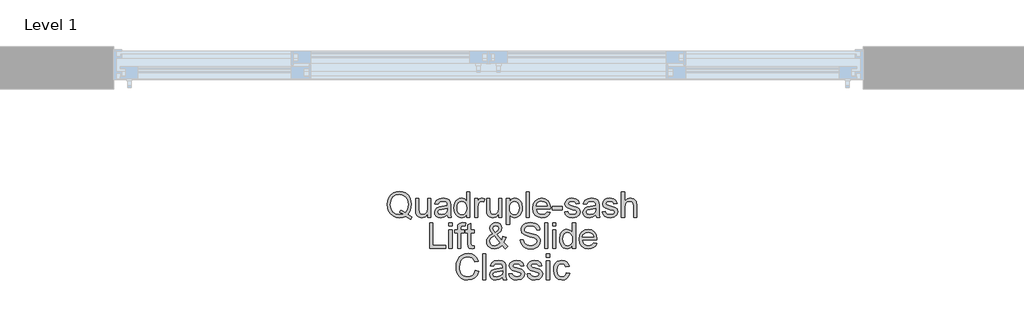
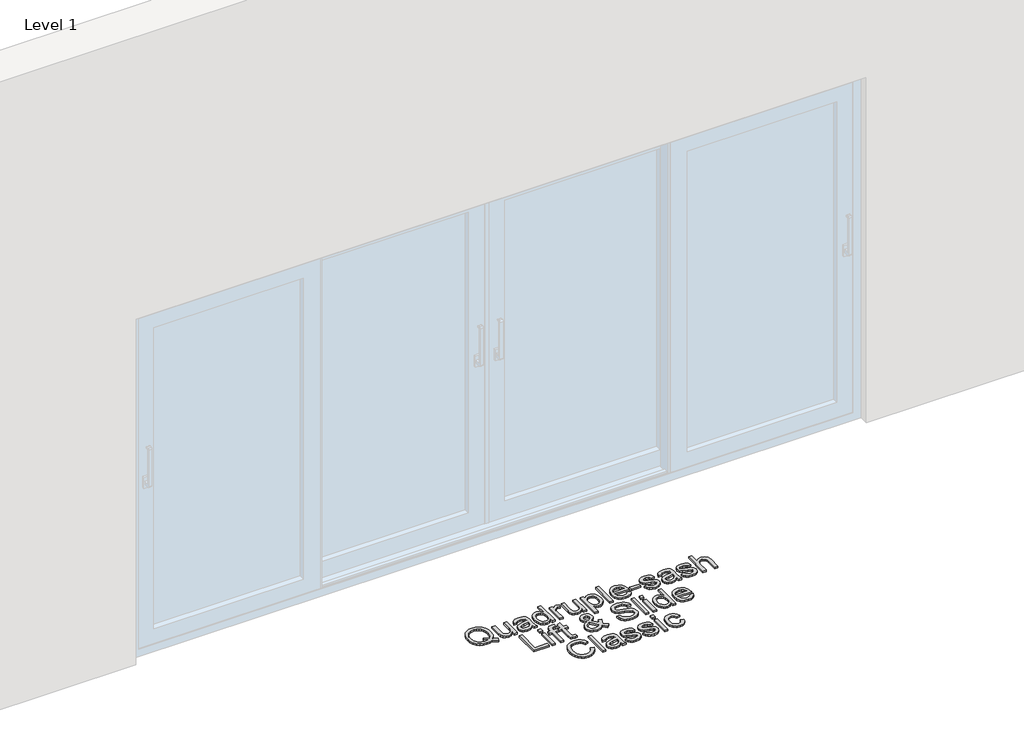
# One storey, part 7 of 13: 1 proxy.
"""IFC4 building model written with IfcOpenShell, lengths in millimetres."""

from ifc_helpers import new_model, si_unit, origin, origin_with_axes, place, context, project, spatial, polyline, outline, extrude, element, save

model = new_model("IFC4")

# Units and contexts
model_context = context("Model", 3, world=origin())
ifc_project = project(units=[si_unit("LENGTHUNIT", "METRE", prefix="MILLI")], contexts=[model_context])

# Site, building, storey
site = spatial("IfcSite", under=ifc_project)
building = spatial("IfcBuilding", under=site)
storey = spatial("IfcBuildingStorey", under=building, Name="Level 1", Elevation=0.0)

# Proxy
placement = place(None, origin())
element("IfcBuildingElementProxy", 1, Name="150mm Arial", ObjectType="150mm Arial", at=placement, inside=storey, context=model_context, shape_type="SweptSolid", body=[
    extrude(outline(polyline([(7597.0276643, -5879.5997474), (7620.388171, -5895.3083086), (7615.3113995, -5909.1038834), (7584.2989473, -5891.4823358), (7566.8705377, -5897.8834825), (7547.6946887, -5900.0171981), (7528.4268692, -5897.5569873), (7511.0168538, -5890.1763547), (7496.4349312, -5878.3397515), (7485.6513903, -5862.5116287), (7478.9881276, -5843.5611074), (7476.7670401, -5822.3573089), (7478.9835291, -5801.1351163), (7485.6329962, -5781.9086836), (7496.3751504, -5765.855233), (7510.869701, -5754.151987), (7528.2153371, -5747.0058793), (7547.5107477, -5744.6238433), (7566.9579097, -5747.0610616), (7584.3909178, -5754.3727162), (7598.8624757, -5766.0713637), (7609.4252875, -5781.6695603), (7615.8816165, -5800.3395715), (7618.0337262, -5821.2536629), (7612.8098019, -5854.1791015), (7606.2523053, -5867.8367206), (7597.0276643, -5879.5997474)]), holes=[polyline([(7552.8818249, -5854.5469835), (7568.7191448, -5860.534263), (7581.5030441, -5868.8575931), (7594.7743871, -5849.4334238), (7599.1981681, -5822.2101561), (7597.6346696, -5805.6324737), (7592.9441741, -5791.2896744), (7585.2416449, -5779.5450417), (7574.6420449, -5770.7618591), (7561.8627441, -5765.2850159), (7547.6211123, -5763.4594015), (7527.093297, -5767.152017), (7510.3914544, -5778.2298636), (7499.2998123, -5796.6377589), (7495.6025982, -5822.3205207), (7499.2584256, -5847.4514595), (7510.2259075, -5865.9697195), (7526.8771663, -5877.3786598), (7547.5843241, -5881.18164), (7567.8546221, -5877.318879), (7548.0257825, -5868.9679577), (7552.8818249, -5854.5469835)])]), origin_with_axes(), (0.0, 0.0, 1.0), 10.0),
    extrude(outline(polyline([(7714.5659618, -5897.6627533), (7714.5659618, -5878.6432542), (7699.8138937, -5894.6737121), (7680.5736654, -5900.0171981), (7662.8601473, -5896.2648018), (7650.6464651, -5886.8470227), (7645.0362647, -5872.9778715), (7643.9326187, -5855.4666885), (7643.9326187, -5787.0038492), (7662.7681768, -5787.0038492), (7662.7681768, -5846.6007324), (7663.908611, -5865.8041726), (7671.3582214, -5877.0797557), (7685.3929195, -5881.18164), (7701.1198748, -5876.9877852), (7711.5125412, -5865.5650493), (7714.5659618, -5844.5773814), (7714.5659618, -5787.0038492), (7733.4015199, -5787.0038492), (7733.4015199, -5897.6627533), (7714.5659618, -5897.6627533)])), origin_with_axes(), (0.0, 0.0, 1.0), 10.0),
    extrude(outline(polyline([(7829.9337554, -5883.5360847), (7811.6684144, -5896.30159), (7791.4900869, -5900.0171981), (7775.7493361, -5897.782315), (7764.1380606, -5891.0776656), (7756.9781573, -5880.8965314), (7754.5915228, -5868.2321937), (7758.1967664, -5853.3329729), (7767.6697278, -5842.5172423), (7780.8582973, -5836.3368247), (7797.1554697, -5833.5041334), (7829.8233908, -5827.0294103), (7829.9337554, -5822.8355555), (7828.6369714, -5814.4294519), (7824.7466193, -5808.9296161), (7816.0462101, -5804.846126), (7803.9244984, -5803.4849626), (7784.868211, -5807.1086002), (7775.7815258, -5819.966076), (7756.9459676, -5817.6116312), (7765.0945538, -5799.2175314), (7781.5020908, -5788.438589), (7806.3525196, -5784.6494044), (7829.1795974, -5787.9971306), (7842.0738613, -5796.4032342), (7847.8496086, -5809.1871335), (7848.7693136, -5825.6682469), (7848.7693136, -5849.10233), (7849.7258068, -5881.8254334), (7853.4782031, -5897.6627533), (7834.642645, -5897.6627533), (7829.9337554, -5883.5360847)]), holes=[polyline([(7829.9337554, -5845.8649684), (7799.5467026, -5851.6407157), (7783.3415008, -5854.6941363), (7776.0022549, -5859.6605432), (7773.427081, -5866.9078185), (7779.0372814, -5877.0981498), (7795.5000007, -5881.18164), (7814.556288, -5876.6750855), (7826.8435467, -5865.7673844), (7829.8233908, -5851.1992574), (7829.9337554, -5845.8649684)])]), origin_with_axes(), (0.0, 0.0, 1.0), 10.0),
    extrude(outline(polyline([(7942.9471044, -5897.6627533), (7942.9471044, -5879.894053), (7930.4851018, -5894.9864118), (7913.2590273, -5900.0171981), (7901.0821333, -5898.1961822), (7889.9353089, -5892.7331346), (7880.4991357, -5884.0097328), (7873.4541955, -5872.4076544), (7869.0672027, -5858.3959489), (7867.6048717, -5842.4436659), (7872.994343, -5812.4612833), (7879.7265835, -5800.5694978), (7889.1443626, -5791.8231033), (7900.5349088, -5786.4428292), (7913.1854509, -5784.6494044), (7930.5494811, -5789.7813583), (7942.9471044, -5803.1170806), (7942.9471044, -5746.9782881), (7961.7826625, -5746.9782881), (7961.7826625, -5897.6627533), (7942.9471044, -5897.6627533)]), holes=[polyline([(7886.4404299, -5842.3700895), (7888.5649484, -5859.4076244), (7894.938504, -5871.5247376), (7904.1999332, -5878.7674144), (7914.9880727, -5881.18164), (7925.7716137, -5878.877779), (7934.7985182, -5871.966196), (7940.9099578, -5860.3181323), (7942.9471044, -5843.8048292), (7940.8731696, -5825.7510203), (7934.6513654, -5813.2338354), (7925.3945347, -5805.9221808), (7914.2155205, -5803.4849626), (7903.3170164, -5805.8256118), (7894.386681, -5812.8475594), (7888.4269927, -5824.9094903), (7886.4404299, -5842.3700895)])]), origin_with_axes(), (0.0, 0.0, 1.0), 10.0),
    extrude(outline(polyline([(7990.0359997, -5897.6627533), (7990.0359997, -5787.0038492), (8006.5171131, -5787.0038492), (8006.5171131, -5803.374598), (8018.2157606, -5788.2914362), (8029.9879844, -5784.6494044), (8048.897119, -5790.4619399), (8042.6063369, -5807.3477235), (8029.362585, -5803.4849626), (8018.7124013, -5807.2005707), (8011.9249785, -5817.5012666), (8008.8715579, -5839.5006099), (8008.8715579, -5897.6627533), (7990.0359997, -5897.6627533)])), origin_with_axes(), (0.0, 0.0, 1.0), 10.0),
    extrude(outline(polyline([(8131.3026859, -5897.6627533), (8131.3026859, -5878.6432542), (8116.5506179, -5894.6737121), (8097.3103895, -5900.0171981), (8079.5968715, -5896.2648018), (8067.3831892, -5886.8470227), (8061.7729888, -5872.9778715), (8060.6693428, -5855.4666885), (8060.6693428, -5787.0038492), (8079.504901, -5787.0038492), (8079.504901, -5846.6007324), (8080.6453352, -5865.8041726), (8088.0949456, -5877.0797557), (8102.1296437, -5881.18164), (8117.856599, -5876.9877852), (8128.2492653, -5865.5650493), (8131.3026859, -5844.5773814), (8131.3026859, -5787.0038492), (8150.138244, -5787.0038492), (8150.138244, -5897.6627533), (8131.3026859, -5897.6627533)])), origin_with_axes(), (0.0, 0.0, 1.0), 10.0),
    extrude(outline(polyline([(8176.0371365, -5940.0427592), (8176.0371365, -5787.0038492), (8194.8726947, -5787.0038492), (8194.8726947, -5805.4715254), (8207.8957173, -5789.8549347), (8225.4804767, -5784.6494044), (8238.2183907, -5786.4704203), (8249.3560181, -5791.9334679), (8258.4243093, -5800.7074535), (8264.9542147, -5812.4612833), (8270.2149273, -5841.4871727), (8268.7296037, -5857.5958055), (8264.273633, -5872.0029842), (8256.9895695, -5883.9775431), (8247.0199675, -5892.7883169), (8235.408692, -5898.2099778), (8223.1996083, -5900.0171981), (8206.8104654, -5895.1795499), (8194.8726947, -5882.9474735), (8194.8726947, -5940.0427592), (8176.0371365, -5940.0427592)]), holes=[polyline([(8194.8726947, -5843.2162181), (8196.9098412, -5860.1020016), (8203.0212808, -5871.9110137), (8212.0389883, -5878.8639834), (8222.7949381, -5881.18164), (8233.7256319, -5878.7812099), (8242.9732655, -5871.5799199), (8249.2778432, -5859.3386465), (8251.3793691, -5841.8182665), (8249.328427, -5825.0244534), (8243.1756006, -5813.0498945), (8234.1716888, -5805.8761955), (8223.5674903, -5803.4849626), (8212.921905, -5806.0279469), (8203.5731038, -5813.6568997), (8197.047797, -5826.1326979), (8194.8726947, -5843.2162181)])]), origin_with_axes(), (0.0, 0.0, 1.0), 10.0),
    extrude(outline(polyline([(8291.4049302, -5897.6627533), (8291.4049302, -5746.9782881), (8310.2404883, -5746.9782881), (8310.2404883, -5897.6627533), (8291.4049302, -5897.6627533)])), origin_with_axes(), (0.0, 0.0, 1.0), 10.0),
    extrude(outline(polyline([(8415.9697738, -5864.7005266), (8434.4374499, -5867.0549713), (8427.7833843, -5880.9701078), (8417.1653902, -5891.3719712), (8402.822591, -5897.8558914), (8384.9941098, -5900.0171981), (8362.8935989, -5896.2877944), (8345.8882537, -5885.0995832), (8335.0449319, -5867.1791315), (8331.4304913, -5843.2530063), (8335.0817201, -5818.5221391), (8346.0354065, -5800.0268718), (8362.8108255, -5788.4937713), (8383.927252, -5784.6494044), (8404.3860894, -5788.4845742), (8420.7338456, -5799.9900836), (8431.4530072, -5818.4485627), (8435.0260611, -5843.1426417), (8434.9156965, -5848.2194132), (8350.2660494, -5848.2194132), (8353.5264036, -5862.3184907), (8361.1001742, -5872.6835659), (8372.030868, -5879.0571214), (8385.3619918, -5881.18164), (8403.8296679, -5877.2453026), (8415.9697738, -5864.7005266)]), holes=[polyline([(8350.2660494, -5829.383855), (8416.190503, -5829.383855), (8413.6429201, -5819.4326471), (8408.6489221, -5812.3141305), (8397.6676445, -5805.6922545), (8383.8536756, -5803.4849626), (8371.1571482, -5805.2461976), (8360.6587158, -5810.5299028), (8353.3608567, -5818.765861), (8350.2660494, -5829.383855)])]), origin_with_axes(), (0.0, 0.0, 1.0), 10.0),
    extrude(outline(polyline([(8444.4438402, -5852.9283027), (8444.4438402, -5834.0927446), (8503.3049594, -5834.0927446), (8503.3049594, -5852.9283027), (8444.4438402, -5852.9283027)])), origin_with_axes(), (0.0, 0.0, 1.0), 10.0),
    extrude(outline(polyline([(8517.431628, -5864.7005266), (8536.2671862, -5862.3460818), (8539.2378333, -5870.4026975), (8544.9859895, -5876.3255976), (8564.9619818, -5881.18164), (8584.165422, -5876.7302678), (8590.4194159, -5866.2824192), (8588.8467203, -5861.4815591), (8584.1286338, -5857.8211333), (8564.7412526, -5852.4500561), (8536.3775508, -5843.2346122), (8523.9983216, -5832.4740638), (8519.7860728, -5817.2805374), (8523.1705872, -5803.2458393), (8532.4044252, -5792.5220791), (8544.3789842, -5786.9486669), (8560.5841861, -5784.6494044), (8583.5032344, -5788.3466185), (8598.0713614, -5798.3530087), (8604.5460845, -5815.2571864), (8585.7105263, -5817.6116312), (8578.6287979, -5807.2189648), (8562.055714, -5803.4849626), (8544.0294963, -5807.0534179), (8538.6216309, -5815.367551), (8540.8657111, -5820.8489927), (8547.8922572, -5825.0060593), (8564.1158532, -5829.015973), (8591.7621852, -5837.8819291), (8604.6012668, -5847.9251076), (8609.254974, -5864.2958564), (8603.7919264, -5882.3220741), (8588.0281829, -5895.4002791), (8564.7044644, -5900.0171981), (8545.7125564, -5897.791512), (8531.8526022, -5891.1144538), (8522.6003701, -5880.0595999), (8517.431628, -5864.7005266)])), origin_with_axes(), (0.0, 0.0, 1.0), 10.0),
    extrude(outline(polyline([(8701.07832, -5883.5360847), (8682.812979, -5896.30159), (8662.6346515, -5900.0171981), (8646.8939007, -5897.782315), (8635.2826252, -5891.0776656), (8628.1227219, -5880.8965314), (8625.7360874, -5868.2321937), (8629.341331, -5853.3329729), (8638.8142923, -5842.5172423), (8652.0028619, -5836.3368247), (8668.3000342, -5833.5041334), (8700.9679554, -5827.0294103), (8701.07832, -5822.8355555), (8699.781536, -5814.4294519), (8695.8911839, -5808.9296161), (8687.1907747, -5804.846126), (8675.069063, -5803.4849626), (8656.0127756, -5807.1086002), (8646.9260903, -5819.966076), (8628.0905322, -5817.6116312), (8636.2391184, -5799.2175314), (8652.6466554, -5788.438589), (8677.4970841, -5784.6494044), (8700.3241619, -5787.9971306), (8713.2184259, -5796.4032342), (8718.9941732, -5809.1871335), (8719.9138782, -5825.6682469), (8719.9138782, -5849.10233), (8720.8703714, -5881.8254334), (8724.6227677, -5897.6627533), (8705.7872096, -5897.6627533), (8701.07832, -5883.5360847)]), holes=[polyline([(8701.07832, -5845.8649684), (8670.6912672, -5851.6407157), (8654.4860653, -5854.6941363), (8647.1468195, -5859.6605432), (8644.5716456, -5866.9078185), (8650.181846, -5877.0981498), (8666.6445653, -5881.18164), (8685.7008526, -5876.6750855), (8697.9881113, -5865.7673844), (8700.9679554, -5851.1992574), (8701.07832, -5845.8649684)])]), origin_with_axes(), (0.0, 0.0, 1.0), 10.0),
    extrude(outline(polyline([(8738.7494363, -5864.7005266), (8757.5849945, -5862.3460818), (8760.5556416, -5870.4026975), (8766.3037978, -5876.3255976), (8786.2797901, -5881.18164), (8805.4832303, -5876.7302678), (8811.7372242, -5866.2824192), (8810.1645286, -5861.4815591), (8805.4464421, -5857.8211333), (8786.0590609, -5852.4500561), (8757.6953591, -5843.2346122), (8745.3161299, -5832.4740638), (8741.1038811, -5817.2805374), (8744.4883955, -5803.2458393), (8753.7222335, -5792.5220791), (8765.6967925, -5786.9486669), (8781.9019944, -5784.6494044), (8804.8210427, -5788.3466185), (8819.3891697, -5798.3530087), (8825.8638928, -5815.2571864), (8807.0283346, -5817.6116312), (8799.9466062, -5807.2189648), (8783.3735223, -5803.4849626), (8765.3473046, -5807.0534179), (8759.9394392, -5815.367551), (8762.1835194, -5820.8489927), (8769.2100655, -5825.0060593), (8785.4336615, -5829.015973), (8813.0799935, -5837.8819291), (8825.9190751, -5847.9251076), (8830.5727823, -5864.2958564), (8825.1097347, -5882.3220741), (8809.3459912, -5895.4002791), (8786.0222727, -5900.0171981), (8767.0303647, -5897.791512), (8753.1704105, -5891.1144538), (8743.9181784, -5880.0595999), (8738.7494363, -5864.7005266)])), origin_with_axes(), (0.0, 0.0, 1.0), 10.0),
    extrude(outline(polyline([(8851.7627852, -5897.6627533), (8851.7627852, -5746.9782881), (8870.5983434, -5746.9782881), (8870.5983434, -5802.3813166), (8885.2860321, -5789.0823825), (8903.3766292, -5784.6494044), (8924.5298439, -5789.4870527), (8937.3689255, -5802.8595632), (8941.2316865, -5827.6180215), (8941.2316865, -5897.6627533), (8922.3961283, -5897.6627533), (8922.3961283, -5829.567796), (8920.8970092, -5817.7771781), (8916.3996518, -5809.7021683), (8909.1523765, -5805.039264), (8899.4035036, -5803.4849626), (8883.9708539, -5807.6788173), (8873.6701581, -5819.046371), (8870.5983434, -5838.8752105), (8870.5983434, -5897.6627533), (8851.7627852, -5897.6627533)])), origin_with_axes(), (0.0, 0.0, 1.0), 10.0),
    extrude(outline(polyline([(7725.1609632, -6080.6249801), (7725.1609632, -5929.9405149), (7743.9965214, -5929.9405149), (7743.9965214, -6061.789422), (7819.338754, -6061.789422), (7819.338754, -6080.6249801), (7725.1609632, -6080.6249801)])), origin_with_axes(), (0.0, 0.0, 1.0), 10.0),
    extrude(outline(polyline([(7838.1743121, -5948.776073), (7838.1743121, -5929.9405149), (7857.0098703, -5929.9405149), (7857.0098703, -5948.776073), (7838.1743121, -5948.776073)])), origin_with_axes(), (0.0, 0.0, 1.0), 10.0),
    extrude(outline(polyline([(7838.1743121, -6080.6249801), (7838.1743121, -5969.966076), (7857.0098703, -5969.966076), (7857.0098703, -6080.6249801), (7838.1743121, -6080.6249801)])), origin_with_axes(), (0.0, 0.0, 1.0), 10.0),
    extrude(outline(polyline([(7986.5043326, -6064.9164189), (7988.8587774, -6081.1768031), (7974.7688969, -6082.9794249), (7958.9867593, -6079.8524279), (7951.1140847, -6071.6486594), (7948.8332163, -6050.2747155), (7948.8332163, -5988.8016341), (7934.7065477, -5988.8016341), (7934.7065477, -5969.966076), (7948.8332163, -5969.966076), (7948.8332163, -5943.0739021), (7967.6687744, -5932.0006541), (7967.6687744, -5969.966076), (7986.5043326, -5969.966076), (7986.5043326, -5988.8016341), (7967.6687744, -5988.8016341), (7967.6687744, -6049.7228925), (7968.6620558, -6059.4349772), (7971.8810233, -6062.8746738), (7978.3005641, -6064.1438667), (7986.5043326, -6064.9164189)])), origin_with_axes(), (0.0, 0.0, 1.0), 10.0),
    extrude(outline(polyline([(7889.9720971, -6080.6249801), (7889.9720971, -5988.8016341), (7873.4909837, -5988.8016341), (7873.4909837, -5969.966076), (7889.9720971, -5969.966076), (7889.9720971, -5958.8192515), (7891.9586598, -5943.1106903), (7901.5971681, -5931.8902895), (7920.5798791, -5927.5860701), (7937.7599682, -5929.6462093), (7935.0008533, -5947.3045451), (7924.1483344, -5946.4216283), (7912.2841401, -5949.5486252), (7908.8076552, -5961.2104845), (7908.8076552, -5969.966076), (7929.9976581, -5969.966076), (7929.9976581, -5988.8016341), (7908.8076552, -5988.8016341), (7908.8076552, -6080.6249801), (7889.9720971, -6080.6249801)])), origin_with_axes(), (0.0, 0.0, 1.0), 10.0),
    extrude(outline(polyline([(8150.6164906, -6062.0101512), (8130.6404983, -6077.7371064), (8107.2799916, -6082.9794249), (8086.4946589, -6079.0982698), (8070.4917921, -6067.4548047), (8062.2420383, -6054.054703), (8059.4921204, -6039.1646793), (8061.7040109, -6025.9669127), (8068.3396824, -6014.1119154), (8079.3715437, -6003.6088844), (8094.7720038, -5994.4670168), (8081.6202224, -5975.4107295), (8078.3276786, -5961.2840609), (8080.9212467, -5948.5645409), (8088.7019508, -5937.6292486), (8100.4097953, -5930.0968647), (8114.7847843, -5927.5860701), (8128.4607975, -5929.9865001), (8139.3960898, -5937.1877902), (8146.5697887, -5947.7552005), (8148.9610217, -5960.2539913), (8147.1905896, -5970.7478252), (8141.8792933, -5980.4507128), (8120.634108, -5997.4836492), (8147.8941639, -6031.4391574), (8156.024356, -6010.5802482), (8174.8599141, -6014.6637384), (8161.5425859, -6045.6761906), (8184.2776932, -6068.4848743), (8170.1510246, -6082.9794249), (8150.6164906, -6062.0101512)]), holes=[polyline([(8111.1059644, -5985.6010608), (8126.5937964, -5973.9208074), (8130.1254635, -5962.8291653), (8125.4717563, -5951.0017591), (8113.8282911, -5946.4216283), (8101.9273086, -5950.9649709), (8097.1632367, -5962.0566131), (8098.7819175, -5968.9544005), (8103.6747481, -5976.6247401), (8111.1059644, -5985.6010608)]), polyline([(8137.9981382, -6048.4353055), (8104.3737238, -6006.4599699), (8083.6803616, -6022.2421075), (8078.3276786, -6036.6630817), (8080.1578915, -6045.5474319), (8085.6485303, -6054.7628758), (8094.4960923, -6061.798619), (8106.3970748, -6064.1438667), (8123.7059227, -6059.766071), (8137.9981382, -6048.4353055)])]), origin_with_axes(), (0.0, 0.0, 1.0), 10.0),
    extrude(outline(polyline([(8257.265481, -6028.8271952), (8276.1010392, -6028.8271952), (8282.1710921, -6047.6811474), (8296.9967365, -6059.6005241), (8319.584691, -6064.1438667), (8339.2663778, -6060.7041701), (8351.9767007, -6051.2496028), (8356.1521613, -6038.6128563), (8353.0251644, -6026.8590265), (8340.222871, -6018.3057701), (8312.7972682, -6011.1136771), (8283.2747381, -6001.8246567), (8267.2534772, -5987.8083527), (8261.9743706, -5969.0831592), (8263.6068469, -5958.0512978), (8268.504276, -5947.7643976), (8276.5378991, -5939.0455943), (8287.5789574, -5932.7180239), (8315.5012009, -5927.5860701), (8345.2996425, -5932.9571472), (8356.7223784, -5939.5882202), (8365.1652702, -5948.7392848), (8370.5087562, -5959.840124), (8372.6332747, -5972.3205207), (8353.7977166, -5972.3205207), (8350.3396258, -5961.0817258), (8343.1291387, -5952.9699278), (8331.8627526, -5948.0587031), (8316.2369649, -5946.4216283), (8300.2432951, -5948.040309), (8289.2712146, -5952.8963514), (8282.9252502, -5960.0424591), (8280.8099287, -5968.5313362), (8282.3090479, -5975.7694144), (8286.8064053, -5981.591147), (8317.56134, -5992.1125721), (8350.8914488, -6001.5671393), (8361.6290045, -6008.4005474), (8369.1200017, -6016.8342421), (8373.52079, -6026.7762531), (8374.9877195, -6038.1346097), (8373.3000608, -6049.7458851), (8368.2370849, -6060.6673819), (8360.0057252, -6070.0667668), (8348.8129155, -6077.1117071), (8335.353033, -6081.5124954), (8320.320455, -6082.9794249), (8301.8665744, -6081.3975323), (8286.6776466, -6076.6518546), (8274.5789274, -6068.7239976), (8265.3956731, -6057.5955672), (8259.5003642, -6044.0391157), (8257.265481, -6028.8271952)])), origin_with_axes(), (0.0, 0.0, 1.0), 10.0),
    extrude(outline(polyline([(8400.886612, -6080.6249801), (8400.886612, -5929.9405149), (8419.7221701, -5929.9405149), (8419.7221701, -6080.6249801), (8400.886612, -6080.6249801)])), origin_with_axes(), (0.0, 0.0, 1.0), 10.0),
    extrude(outline(polyline([(8447.9755073, -5948.776073), (8447.9755073, -5929.9405149), (8466.8110655, -5929.9405149), (8466.8110655, -5948.776073), (8447.9755073, -5948.776073)])), origin_with_axes(), (0.0, 0.0, 1.0), 10.0),
    extrude(outline(polyline([(8447.9755073, -6080.6249801), (8447.9755073, -5969.966076), (8466.8110655, -5969.966076), (8466.8110655, -6080.6249801), (8447.9755073, -6080.6249801)])), origin_with_axes(), (0.0, 0.0, 1.0), 10.0),
    extrude(outline(polyline([(8563.343301, -6080.6249801), (8563.343301, -6062.8562797), (8550.8812984, -6077.9486386), (8533.655224, -6082.9794249), (8521.47833, -6081.158409), (8510.3315055, -6075.6953614), (8500.8953323, -6066.9719596), (8493.8503921, -6055.3698811), (8489.4633993, -6041.3581756), (8488.0010684, -6025.4058926), (8493.3905396, -5995.42351), (8500.1227802, -5983.5317245), (8509.5405592, -5974.7853301), (8520.9311055, -5969.4050559), (8533.5816476, -5967.6116312), (8550.9456778, -5972.743585), (8563.343301, -5986.0793073), (8563.343301, -5929.9405149), (8582.1788592, -5929.9405149), (8582.1788592, -6080.6249801), (8563.343301, -6080.6249801)]), holes=[polyline([(8506.8366266, -6025.3323162), (8508.9611451, -6042.3698511), (8515.3347007, -6054.4869644), (8524.5961299, -6061.7296411), (8535.3842694, -6064.1438667), (8546.1678104, -6061.8400057), (8555.1947148, -6054.9284227), (8561.3061545, -6043.2803591), (8563.343301, -6026.767056), (8561.2693663, -6008.7132471), (8555.047562, -5996.1960622), (8545.7907313, -5988.8844076), (8534.6117172, -5986.4471893), (8523.7132131, -5988.7878385), (8514.7828777, -5995.8097861), (8508.8231893, -6007.871717), (8506.8366266, -6025.3323162)])]), origin_with_axes(), (0.0, 0.0, 1.0), 10.0),
    extrude(outline(polyline([(8687.9081446, -6047.6627533), (8706.3758208, -6050.0171981), (8699.7217552, -6063.9323346), (8689.1037611, -6074.334198), (8674.7609618, -6080.8181182), (8656.9324806, -6082.9794249), (8634.8319697, -6079.2500212), (8617.8266245, -6068.06181), (8606.9833027, -6050.1413583), (8603.3688621, -6026.215233), (8607.0200909, -6001.4843659), (8617.9737773, -5982.9890986), (8634.7491963, -5971.455998), (8655.8656228, -5967.6116312), (8676.3244603, -5971.446801), (8692.6722164, -5982.9523104), (8703.3913781, -6001.4107895), (8706.9644319, -6026.1048684), (8706.8540673, -6031.18164), (8622.2044203, -6031.18164), (8625.4647744, -6045.2807174), (8633.038545, -6055.6457926), (8643.9692388, -6062.0193482), (8657.3003626, -6064.1438667), (8675.7680388, -6060.2075294), (8687.9081446, -6047.6627533)]), holes=[polyline([(8622.2044203, -6012.3460818), (8688.1288738, -6012.3460818), (8685.581291, -6002.3948738), (8680.5872929, -5995.2763572), (8669.6060153, -5988.6544813), (8655.7920464, -5986.4471893), (8643.0955191, -5988.2084244), (8632.5970866, -5993.4921296), (8625.2992275, -6001.7280877), (8622.2044203, -6012.3460818)])]), origin_with_axes(), (0.0, 0.0, 1.0), 10.0),
    extrude(outline(polyline([(7993.5676669, -6210.0235884), (8012.403225, -6214.8796307), (8003.7120129, -6236.8283903), (7990.0727879, -6252.8634467), (7972.1569348, -6262.6721004), (7950.6358381, -6265.9416516), (7928.7882461, -6263.4676452), (7911.4380115, -6256.045626), (7898.1390773, -6243.9331113), (7888.4453868, -6227.3876186), (7882.5270852, -6207.9358581), (7880.554318, -6187.1045401), (7882.7846026, -6165.1327879), (7889.4754564, -6146.159274), (7900.2773914, -6130.7864051), (7914.8409199, -6119.6165881), (7932.1129796, -6112.8153697), (7951.0405083, -6110.5482969), (7971.6924838, -6113.4821558), (7988.7668069, -6122.2837325), (8001.7300487, -6136.4104011), (8010.0487803, -6155.3195357), (7991.2132221, -6159.807696), (7984.6833167, -6146.071902), (7975.7621783, -6136.6495244), (7964.3394424, -6131.2002724), (7950.3047443, -6129.383855), (7934.1271335, -6131.398009), (7920.8373964, -6137.4404707), (7910.7528313, -6146.8766439), (7904.1907362, -6159.071932), (7899.3898761, -6187.0677519), (7900.8108203, -6204.4685703), (7905.073653, -6219.5149439), (7912.3393224, -6231.6320571), (7922.7687769, -6240.2450943), (7935.2721662, -6245.3908437), (7948.7596399, -6247.1060935), (7964.4819967, -6244.7700428), (7977.5831942, -6237.7618908), (7987.4746214, -6226.1552139), (7993.5676669, -6210.0235884)])), origin_with_axes(), (0.0, 0.0, 1.0), 10.0),
    extrude(outline(polyline([(8035.9476727, -6263.5872069), (8035.9476727, -6112.9027417), (8054.7832309, -6112.9027417), (8054.7832309, -6263.5872069), (8035.9476727, -6263.5872069)])), origin_with_axes(), (0.0, 0.0, 1.0), 10.0),
    extrude(outline(polyline([(8153.6699112, -6249.4605383), (8135.4045701, -6262.2260435), (8115.2262427, -6265.9416516), (8099.4854918, -6263.7067685), (8087.8742164, -6257.0021192), (8080.714313, -6246.8209849), (8078.3276786, -6234.1566473), (8081.9329221, -6219.2574265), (8091.4058835, -6208.4416958), (8104.594453, -6202.2612783), (8120.8916254, -6199.4285869), (8153.5595466, -6192.9538638), (8153.6699112, -6188.7600091), (8152.3731272, -6180.3539055), (8148.4827751, -6174.8540696), (8139.7823659, -6170.7705795), (8127.6606541, -6169.4094161), (8108.6043668, -6173.0330538), (8099.5176815, -6185.8905295), (8080.6821234, -6183.5360847), (8088.8307095, -6165.141985), (8105.2382465, -6154.3630425), (8130.0886753, -6150.573858), (8152.9157531, -6153.9215841), (8165.810017, -6162.3276877), (8171.5857644, -6175.111587), (8172.5054693, -6191.5927004), (8172.5054693, -6215.0267835), (8173.4619625, -6247.749887), (8177.2143589, -6263.5872069), (8158.3788007, -6263.5872069), (8153.6699112, -6249.4605383)]), holes=[polyline([(8153.6699112, -6211.789422), (8123.2828584, -6217.5651693), (8107.0776565, -6220.6185898), (8099.7384107, -6225.5849968), (8097.1632367, -6232.8322721), (8102.7734372, -6243.0226033), (8119.2361564, -6247.1060935), (8138.2924438, -6242.5995391), (8150.5797024, -6231.6918379), (8153.5595466, -6217.1237109), (8153.6699112, -6211.789422)])]), origin_with_axes(), (0.0, 0.0, 1.0), 10.0),
    extrude(outline(polyline([(8191.3410275, -6230.6249801), (8210.1765857, -6228.2705353), (8213.1472328, -6236.327151), (8218.8953889, -6242.2500512), (8238.8713813, -6247.1060935), (8258.0748214, -6242.6547214), (8264.3288153, -6232.2068727), (8262.7561198, -6227.4060127), (8258.0380332, -6223.7455868), (8238.6506521, -6218.3745097), (8210.2869503, -6209.1590657), (8197.9077211, -6198.3985173), (8193.6954723, -6183.2049909), (8197.0799866, -6169.1702928), (8206.3138247, -6158.4465327), (8218.2883836, -6152.8731204), (8234.4935855, -6150.573858), (8257.4126338, -6154.271072), (8271.9807608, -6164.2774623), (8278.455484, -6181.18164), (8259.6199258, -6183.5360847), (8252.5381974, -6173.1434184), (8235.9651135, -6169.4094161), (8217.9388958, -6172.9778715), (8212.5310304, -6181.2920046), (8214.7751106, -6186.7734463), (8221.8016567, -6190.9305128), (8238.0252527, -6194.9404266), (8265.6715846, -6203.8063827), (8278.5106663, -6213.8495611), (8283.1643735, -6230.2203099), (8277.7013259, -6248.2465277), (8261.9375824, -6261.3247326), (8238.6138639, -6265.9416516), (8219.6219559, -6263.7159656), (8205.7620017, -6257.0389074), (8196.5097695, -6245.9840534), (8191.3410275, -6230.6249801)])), origin_with_axes(), (0.0, 0.0, 1.0), 10.0),
    extrude(outline(polyline([(8297.2910421, -6230.6249801), (8316.1266003, -6228.2705353), (8319.0972474, -6236.327151), (8324.8454036, -6242.2500512), (8344.8213959, -6247.1060935), (8364.024836, -6242.6547214), (8370.27883, -6232.2068727), (8368.7061344, -6227.4060127), (8363.9880478, -6223.7455868), (8344.6006667, -6218.3745097), (8316.2369649, -6209.1590657), (8303.8577357, -6198.3985173), (8299.6454869, -6183.2049909), (8303.0300012, -6169.1702928), (8312.2638393, -6158.4465327), (8324.2383983, -6152.8731204), (8340.4436001, -6150.573858), (8363.3626484, -6154.271072), (8377.9307755, -6164.2774623), (8384.4054986, -6181.18164), (8365.5699404, -6183.5360847), (8358.488212, -6173.1434184), (8341.9151281, -6169.4094161), (8323.8889104, -6172.9778715), (8318.481045, -6181.2920046), (8320.7251252, -6186.7734463), (8327.7516713, -6190.9305128), (8343.9752673, -6194.9404266), (8371.6215992, -6203.8063827), (8384.4606809, -6213.8495611), (8389.1143881, -6230.2203099), (8383.6513405, -6248.2465277), (8367.887597, -6261.3247326), (8344.5638785, -6265.9416516), (8325.5719705, -6263.7159656), (8311.7120163, -6257.0389074), (8302.4597841, -6245.9840534), (8297.2910421, -6230.6249801)])), origin_with_axes(), (0.0, 0.0, 1.0), 10.0),
    extrude(outline(polyline([(8410.304391, -6131.7382998), (8410.304391, -6112.9027417), (8429.1399492, -6112.9027417), (8429.1399492, -6131.7382998), (8410.304391, -6131.7382998)])), origin_with_axes(), (0.0, 0.0, 1.0), 10.0),
    extrude(outline(polyline([(8410.304391, -6263.5872069), (8410.304391, -6152.9283027), (8429.1399492, -6152.9283027), (8429.1399492, -6263.5872069), (8410.304391, -6263.5872069)])), origin_with_axes(), (0.0, 0.0, 1.0), 10.0),
    extrude(outline(polyline([(8528.0266295, -6223.5616458), (8546.8621876, -6225.9160906), (8541.6106722, -6242.6685169), (8531.7422376, -6255.3282561), (8518.1857861, -6263.2883028), (8501.8702196, -6265.9416516), (8481.8344465, -6262.2398391), (8466.167272, -6251.1344013), (8456.0551157, -6233.1127821), (8452.6843969, -6208.662425), (8454.1237352, -6191.9008016), (8458.4417501, -6177.3740613), (8465.7074195, -6165.6432242), (8475.9897213, -6157.2693103), (8488.2907755, -6152.247721), (8501.6127022, -6150.573858), (8517.5281971, -6152.8731204), (8530.2523156, -6159.7709078), (8539.3803876, -6170.8993382), (8544.5077429, -6185.8905295), (8525.6721847, -6188.2449743), (8516.9349873, -6174.1366998), (8501.759855, -6169.4094161), (8489.5875595, -6171.7362697), (8479.9260586, -6178.7168306), (8473.6214809, -6190.7281777), (8471.519955, -6208.1473902), (8473.5754957, -6225.8011274), (8479.7421176, -6237.8538613), (8489.2288746, -6244.7930354), (8501.2448202, -6247.1060935), (8510.9982916, -6245.6621567), (8518.9951265, -6241.3303462), (8524.8122606, -6234.0002974), (8528.0266295, -6223.5616458)])), origin_with_axes(), (0.0, 0.0, 1.0), 10.0),
])

save(model, "model.ifc")
